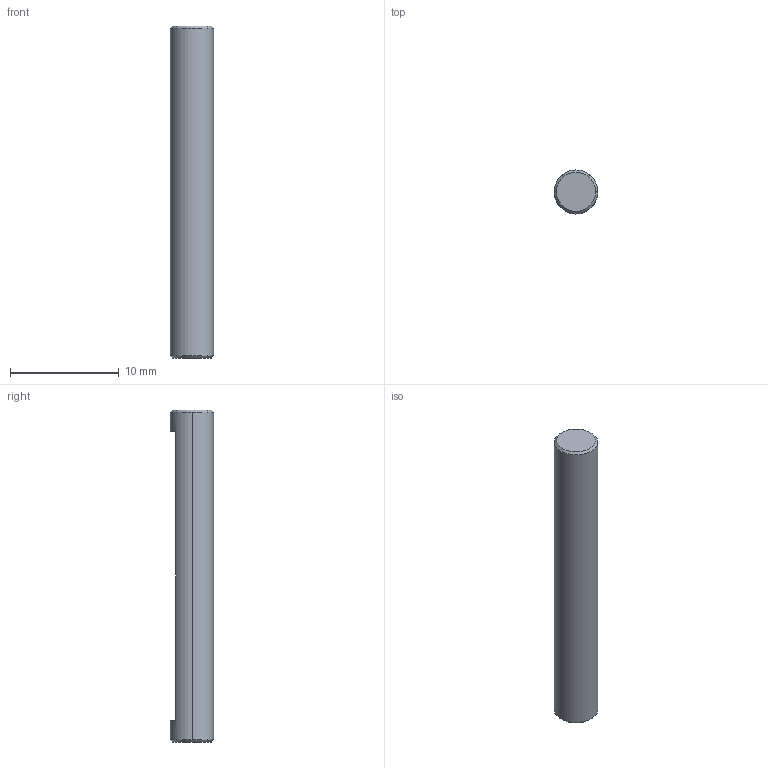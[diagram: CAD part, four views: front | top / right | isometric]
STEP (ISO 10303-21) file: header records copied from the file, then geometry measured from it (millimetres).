
FILE_DESCRIPTION (( 'STEP AP214' ), '1' );
FILE_NAME ('NTS210-B-HOLDER.STEP', '2025-01-08T05:54:07', ( '' ), ( '' ), 'SwSTEP 2.0', 'SolidWorks 2022', '' );
FILE_SCHEMA (( 'AUTOMOTIVE_DESIGN' ));
Length unit declared in the file: millimetre
Products named in the file (1): NTS210-B-HOLDER
Bounding box: 4 x 4 x 30.5 mm (x, y, z)
Volume: 358.8 mm3; surface area: 400.7 mm2
Topology: 1 solids, 1 shells, 11 faces, 20 edges, 12 vertices
Faces by surface type: plane 5, cone 4, cylinder 2
Entity records: 306 total; most frequent: DIRECTION 54, CARTESIAN_POINT 44, ORIENTED_EDGE 40, AXIS2_PLACEMENT_3D 22, EDGE_CURVE 20, VERTEX_POINT 12, EDGE_LOOP 12, FACE_OUTER_BOUND 11
